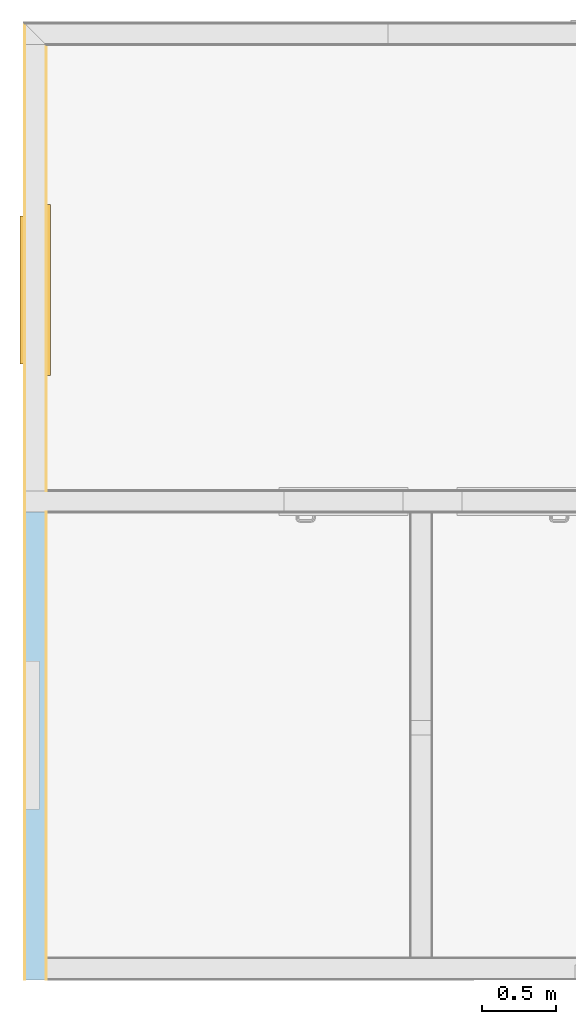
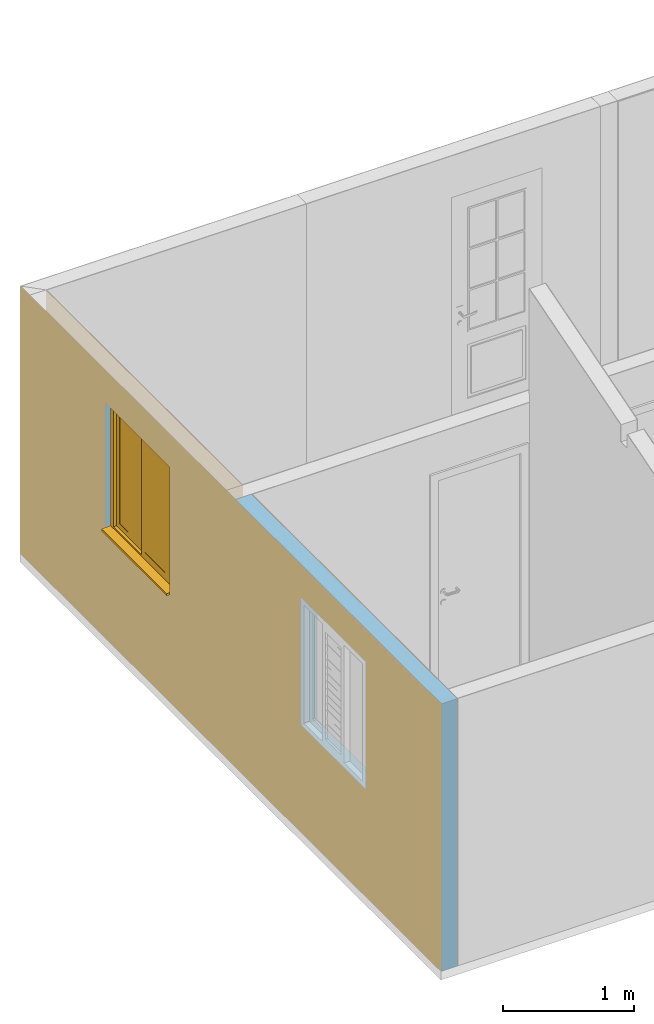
# One storey, part 8 of 8: 1 window, 2 openings, 1 element without a shape of its own, plus 3 elements that do not belong to this part.
"""IFC2X3 building model written with IfcOpenShell, lengths in millimetres."""

import ifcopenshell
import ifcopenshell.guid

model = None  # the IFC model being written
_history = None  # IfcOwnerHistory: only IFC2X3 demands one
_inside = {}  # id of a spatial element -> (the spatial element, [elements in it])
_under = {}  # id of a project, library or spatial element -> (it, [spatial elements below it])
_declared = {}  # id of a project -> (the project, [libraries it declares])
_typed = {}  # id of a type object -> (the type object, [elements of that type])
_made_of = {}  # id of a material, layer set ... -> (it, [elements and type objects made of it])


def new_model(schema):
    """Start an empty IFC model of exactly this schema.

    Asked for "IFC4X3", IfcOpenShell would pick the latest addendum, in which some entities
    have other attributes; the version numbers below select the first issue.
    IFC2X3 requires an IfcOwnerHistory on every rooted entity: one is made here for all.
    """
    global model, _history
    if schema == "IFC4X3":
        model = ifcopenshell.file(schema_version=(4, 3, 0, 0))
    else:
        model = ifcopenshell.file(schema=schema)
    _inside.clear()
    _under.clear()
    _declared.clear()
    _typed.clear()
    _made_of.clear()
    _history = None
    if model.schema == "IFC2X3":
        org = make("IfcOrganization", Name="unknown")
        user = make(
            "IfcPersonAndOrganization",
            ThePerson=make("IfcPerson", FamilyName="unknown"),
            TheOrganization=org,
        )
        app = make(
            "IfcApplication",
            ApplicationDeveloper=org,
            Version="unknown",
            ApplicationFullName="unknown",
            ApplicationIdentifier="unknown",
        )
        _history = make(
            "IfcOwnerHistory",
            OwningUser=user,
            OwningApplication=app,
            ChangeAction="ADDED",
            CreationDate=0,
        )
    return model


def make(cls, **values):
    """One entity of the class cls with the attributes given. An attribute that is None is left unset."""
    return model.create_entity(
        cls, **{name: value for name, value in values.items() if value is not None}
    )


def entity(cls, *values):
    """Any entity or typed value of the class cls, its attributes in the order of the schema. None: left unset."""
    e = model.create_entity(cls)
    for i, value in enumerate(values):
        if value is not None:
            e[i] = value
    return e


def rooted(cls, **values):
    """An entity with a GlobalId (a new one), such as an element, a storey or a relation."""
    return make(cls, GlobalId=ifcopenshell.guid.new(), OwnerHistory=_history, **values)


def si_unit(unit_type, name, prefix=None):
    """IfcSIUnit, for example si_unit("LENGTHUNIT", "METRE", prefix="MILLI")."""
    return make("IfcSIUnit", UnitType=unit_type, Prefix=prefix, Name=name)


def converted_unit(unit_type, name, factor, base, dimensions=None, offset=None):
    """IfcConversionBasedUnit, such as the inch: factor (a typed value) times the base unit."""
    return make(
        "IfcConversionBasedUnit"
        if offset is None
        else "IfcConversionBasedUnitWithOffset",
        ConversionOffset=offset,
        Dimensions=None
        if dimensions is None
        else entity("IfcDimensionalExponents", *dimensions),
        UnitType=unit_type,
        Name=name,
        ConversionFactor=make(
            "IfcMeasureWithUnit", ValueComponent=factor, UnitComponent=base
        ),
    )


def derived_unit(unit_type, elements):
    """IfcDerivedUnit: a product of units, each with its exponent."""
    return make(
        "IfcDerivedUnit",
        Elements=[
            make("IfcDerivedUnitElement", Unit=unit, Exponent=power)
            for unit, power in elements
        ],
        UnitType=unit_type,
    )


def money_unit(currency):
    """IfcMonetaryUnit."""
    return make("IfcMonetaryUnit", Currency=currency)


def assignment(units):
    """IfcUnitAssignment: the units of a project."""
    return None if units is None else make("IfcUnitAssignment", Units=units)


def point(xyz):
    """IfcCartesianPoint."""
    return None if xyz is None else make("IfcCartesianPoint", Coordinates=xyz)


def direction(xyz):
    """IfcDirection."""
    return None if xyz is None else make("IfcDirection", DirectionRatios=xyz)


def frame(location, z_axis=None, x_axis=None):
    """IfcAxis2Placement3D, a coordinate frame: its origin and axes. An axis left out is left unset."""
    return make(
        "IfcAxis2Placement3D",
        Location=point(location),
        Axis=direction(z_axis),
        RefDirection=direction(x_axis),
    )


def frame_2d(location, x_axis=None):
    """IfcAxis2Placement2D, a coordinate frame in the plane: its origin and x axis."""
    return make(
        "IfcAxis2Placement2D", Location=point(location), RefDirection=direction(x_axis)
    )


def origin_with_axes():
    """The frame at (0, 0, 0) with the z axis (0, 0, 1) and the x axis (1, 0, 0) written out."""
    return frame((0.0, 0.0, 0.0), z_axis=(0.0, 0.0, 1.0), x_axis=(1.0, 0.0, 0.0))


def origin_2d_with_axis():
    """The frame at (0, 0) in the plane with the x axis (1, 0) written out."""
    return frame_2d((0.0, 0.0), x_axis=(1.0, 0.0))


def place(relative_to, where):
    """IfcLocalPlacement: puts the frame where relative to a parent placement (None: the world)."""
    return make(
        "IfcLocalPlacement", PlacementRelTo=relative_to, RelativePlacement=where
    )


def context(
    kind, dimensions, precision=None, world=None, true_north=None, identifier=None
):
    """IfcGeometricRepresentationContext, for example the 3D "Model" context."""
    return make(
        "IfcGeometricRepresentationContext",
        ContextIdentifier=identifier,
        ContextType=kind,
        CoordinateSpaceDimension=dimensions,
        Precision=precision,
        WorldCoordinateSystem=world,
        TrueNorth=true_north,
    )


def subcontext(parent, identifier, kind, view, scale=None):
    """IfcGeometricRepresentationSubContext, for example "Body" below "Model"."""
    return make(
        "IfcGeometricRepresentationSubContext",
        ContextIdentifier=identifier,
        ContextType=kind,
        ParentContext=parent,
        TargetScale=scale,
        TargetView=view,
    )


def project(units=None, contexts=None):
    """IfcProject with its units and contexts."""
    return rooted(
        "IfcProject",
        Name="project",
        RepresentationContexts=contexts,
        UnitsInContext=assignment(units),
    )


def spatial(cls, under=None, at=None, **own):
    """A site, building, storey or space (cls), placed at a placement, below another one or the project."""
    s = rooted(cls, ObjectPlacement=at, **own)
    if under is not None:
        _under.setdefault(under.id(), (under, []))[1].append(s)
    return s


def polyline(points):
    """IfcPolyline through the points."""
    return make("IfcPolyline", Points=[point(p) for p in points])


def profile(cls, at=None, kind="AREA", **sizes):
    """A parametric profile (cls). Its sizes go by their IFC names, for example OverallWidth=200.0."""
    return make(cls, ProfileType=kind, Position=at, **sizes)


def rectangle(**sizes):
    """IfcRectangleProfileDef."""
    return profile("IfcRectangleProfileDef", **sizes)


def outline(outer, holes=None, kind="AREA"):
    """IfcArbitraryClosedProfileDef: a profile drawn as a closed curve; with holes, ...WithVoids."""
    if holes is None:
        return make("IfcArbitraryClosedProfileDef", ProfileType=kind, OuterCurve=outer)
    return make(
        "IfcArbitraryProfileDefWithVoids",
        ProfileType=kind,
        OuterCurve=outer,
        InnerCurves=holes,
    )


def extrude(swept, where, along, depth):
    """IfcExtrudedAreaSolid: the profile swept, set in the frame where, extruded along a direction by depth."""
    return make(
        "IfcExtrudedAreaSolid",
        SweptArea=swept,
        Position=where,
        ExtrudedDirection=direction(along),
        Depth=depth,
    )


def boolean(op, a, b):
    """IfcBooleanResult of two solids."""
    return make("IfcBooleanResult", Operator=op, FirstOperand=a, SecondOperand=b)


def faces_of(points, faces, orient=None, outer=None):
    """IfcFace entities. A face is a list of loops; a loop is a list of indices into points, from 0.

    orient and outer hold one flag for each loop. By default every Orientation is true, the
    first loop of a face is its IfcFaceOuterBound and the others are IfcFaceBound.
    """
    made = []
    for i, loops in enumerate(faces):
        bounds = []
        for j, loop in enumerate(loops):
            is_outer = j == 0 if outer is None else outer[i][j]
            bounds.append(
                make(
                    "IfcFaceOuterBound" if is_outer else "IfcFaceBound",
                    Bound=make("IfcPolyLoop", Polygon=[points[k] for k in loop]),
                    Orientation=True if orient is None else orient[i][j],
                )
            )
        made.append(make("IfcFace", Bounds=bounds))
    return made


def open_shell(faces, orient=None, outer=None):
    """The faces of one IfcOpenShell. surface_model builds it on its shared points."""
    return ("IfcOpenShell", faces, orient, outer)


def faceted_brep(points, faces, orient=None, outer=None, voids=None):
    """IfcFacetedBrep: a solid bounded by flat faces; with voids (closed shells), ...WithVoids."""
    shared = [point(p) for p in points]
    hull = make("IfcClosedShell", CfsFaces=faces_of(shared, faces, orient, outer))
    if voids is None:
        return make("IfcFacetedBrep", Outer=hull)
    return make(
        "IfcFacetedBrepWithVoids",
        Outer=hull,
        Voids=[
            make(cls, CfsFaces=faces_of(shared, fs, o, b)) for cls, fs, o, b in voids
        ],
    )


def surface_model(cls, points, shells):
    """IfcFaceBasedSurfaceModel or IfcShellBasedSurfaceModel (cls): surfaces that need not close."""
    shared = [point(p) for p in points]
    made = [make(c, CfsFaces=faces_of(shared, fs, o, b)) for c, fs, o, b in shells]
    if cls == "IfcFaceBasedSurfaceModel":
        return make(cls, FbsmFaces=made)
    return make(cls, SbsmBoundary=made)


def shape(context_of_items, identifier, shape_type, items):
    """IfcShapeRepresentation: the items that make up one representation, for example the "Body"."""
    return make(
        "IfcShapeRepresentation",
        ContextOfItems=context_of_items,
        RepresentationIdentifier=identifier,
        RepresentationType=shape_type,
        Items=items,
    )


def material(Name=None, Category=None):
    """IfcMaterial."""
    return make("IfcMaterial", Name=Name, Category=Category)


def made_of(thing, what):
    """Note that an element or type object is made of a material, layer set ...; save() writes the relation."""
    if what is not None:
        _made_of.setdefault(what.id(), (what, []))[1].append(thing)
    return thing


def type_object(cls, material=None, **own):
    """A type object (cls), such as IfcWallType, which elements share."""
    return made_of(rooted(cls, **own), material)


def element(
    cls,
    number,
    at=None,
    inside=None,
    cuts=None,
    type_object=None,
    material=None,
    context=None,
    identifier="Body",
    shape_type=None,
    held_by="IfcProductDefinitionShape",
    body=None,
    shapes=None,
    **own,
):
    """One element of the class cls, such as IfcWall. Its Tag is "e" and its number.

    at: its placement. inside: the storey or other place that contains it. cuts: it is an
    opening in that element (IfcRelVoidsElement). A single representation is given by context,
    identifier, shape_type and body (its items); several are given by shapes. held_by: the class
    of the entity that holds the representations. save() writes the other relations.
    """
    e = rooted(cls, Tag="e%d" % number, ObjectPlacement=at, **own)
    if body is not None:
        shapes = [shape(context, identifier, shape_type, body)]
    if shapes is not None:
        e.Representation = make(held_by, Representations=shapes)
    if inside is not None:
        _inside.setdefault(inside.id(), (inside, []))[1].append(e)
    if cuts is not None:
        rooted(
            "IfcRelVoidsElement", RelatingBuildingElement=cuts, RelatedOpeningElement=e
        )
    if type_object is not None:
        _typed.setdefault(type_object.id(), (type_object, []))[1].append(e)
    return made_of(e, material)


def fill(opening, filler):
    """IfcRelFillsElement: the door or window that sits in an opening."""
    return rooted(
        "IfcRelFillsElement",
        RelatingOpeningElement=opening,
        RelatedBuildingElement=filler,
    )


def aggregate(whole, parts):
    """IfcRelAggregates: a whole, such as a stair, and the parts it consists of."""
    return rooted("IfcRelAggregates", RelatingObject=whole, RelatedObjects=parts)


def save(model, path):
    """Write the relations noted so far, then the file.

    IfcRelAggregates (storeys below a building ...), IfcRelContainedInSpatialStructure (elements
    in a storey), IfcRelDefinesByType, IfcRelAssociatesMaterial and IfcRelDeclares: one each for
    every whole, place, type object, material and project.
    """
    for whole, parts in _under.values():
        aggregate(whole, parts)
    for where, things in _inside.values():
        rooted(
            "IfcRelContainedInSpatialStructure",
            RelatedElements=things,
            RelatingStructure=where,
        )
    for kind, things in _typed.values():
        rooted("IfcRelDefinesByType", RelatedObjects=things, RelatingType=kind)
    for what, things in _made_of.values():
        rooted("IfcRelAssociatesMaterial", RelatedObjects=things, RelatingMaterial=what)
    for by, libraries in _declared.values():
        rooted("IfcRelDeclares", RelatingContext=by, RelatedDefinitions=libraries)
    model.write(path)


model = new_model("IFC2X3")

# Units and contexts
model_context = context("Model", 3, precision=0.01, world=origin_with_axes(), true_north=direction((0.0, 1.0)))
body_context = subcontext(model_context, "Body", "Model", "MODEL_VIEW")
ifc_project = project(units=[si_unit("LENGTHUNIT", "METRE", prefix="MILLI"), si_unit("AREAUNIT", "SQUARE_METRE"), si_unit("VOLUMEUNIT", "CUBIC_METRE"), converted_unit("PLANEANGLEUNIT", "DEGREE", entity("IfcPlaneAngleMeasure", 0.0174532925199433), si_unit("PLANEANGLEUNIT", "RADIAN"), dimensions=[0, 0, 0, 0, 0, 0, 0]), money_unit("USD"), converted_unit("TIMEUNIT", "Year", entity("IfcTimeMeasure", 31557600.0), si_unit("TIMEUNIT", "SECOND"), dimensions=[0, 0, 1, 0, 0, 0, 0]), si_unit("MASSUNIT", "GRAM", prefix="KILO"), si_unit("THERMODYNAMICTEMPERATUREUNIT", "DEGREE_CELSIUS"), si_unit("LUMINOUSINTENSITYUNIT", "LUMEN"), si_unit("ENERGYUNIT", "JOULE", prefix="MEGA"), derived_unit("THERMALCONDUCTANCEUNIT", [(si_unit("POWERUNIT", "WATT"), 1), (si_unit("LENGTHUNIT", "METRE"), -1), (si_unit("THERMODYNAMICTEMPERATUREUNIT", "KELVIN"), -1)]), derived_unit("SPECIFICHEATCAPACITYUNIT", [(si_unit("ENERGYUNIT", "JOULE"), 1), (si_unit("MASSUNIT", "GRAM", prefix="KILO"), -1), (si_unit("THERMODYNAMICTEMPERATUREUNIT", "KELVIN"), -1)]), derived_unit("MASSDENSITYUNIT", [(si_unit("MASSUNIT", "GRAM", prefix="KILO"), 1), (si_unit("VOLUMEUNIT", "CUBIC_METRE"), -1)])], contexts=[model_context])

# Site, building, storey
site_placement = place(None, origin_with_axes())
site = spatial("IfcSite", under=ifc_project, at=site_placement, Name="Local", CompositionType="ELEMENT")
building_placement = place(site_placement, origin_with_axes())
building = spatial("IfcBuilding", under=site, at=building_placement, Name="Construção", CompositionType="ELEMENT")
storey_placement = place(building_placement, origin_with_axes())
storey = spatial("IfcBuildingStorey", under=building, at=storey_placement, Name="Pavimento Térreo", CompositionType="ELEMENT", Elevation=0.0)

# Window
window_style = type_object("IfcWindowStyle", Name="Janela 27", ConstructionType="NOTDEFINED", OperationType="DOUBLE_PANEL_VERTICAL", ParameterTakesPrecedence=False, Sizeable=False)
wall_placement = place(storey_placement, frame((0.0, 6450.000000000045, 0.0), z_axis=(0.0, 0.0, 1.0), x_axis=(0.0, -1.0, 0.0)))
opening_2_placement = place(wall_placement, frame((1800.000000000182, 0.0, 1000.0), z_axis=(0.0, 0.0, 1.0), x_axis=(1.0, 0.0, 0.0)))
window_placement = place(opening_2_placement, frame((500.0, 0.0, 0.0), z_axis=(0.0, 0.0, 1.0), x_axis=(-1.0, 0.0, 0.0)))
window = element("IfcWindow", 1, at=window_placement, inside=storey, type_object=window_style, Name="J02", ObjectType="WINDOW", OverallHeight=1200.0, OverallWidth=1000.0, context=body_context, shape_type="SurfaceModel", body=[
    faceted_brep([(0.0, -149.9999999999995, 0.0), (0.0, -99.99999999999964, 0.0), (1000.0, -99.99999999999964, 0.0), (1000.0, -150.0000000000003, 0.0), (0.0, -149.9999999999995, 1200.0), (0.0, -99.99999999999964, 1200.0), (1000.0, -100.0000000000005, 1200.0), (25.00000000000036, -99.99999999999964, 1175.0), (25.00000000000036, -99.99999999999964, 24.99999999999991), (974.9999999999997, -99.99999999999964, 24.99999999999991), (974.9999999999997, -99.99999999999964, 1175.0), (1000.0, -150.0000000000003, 1200.0), (974.9999999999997, -150.0000000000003, 24.99999999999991), (25.00000000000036, -149.9999999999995, 24.99999999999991), (25.00000000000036, -149.9999999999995, 1175.0), (974.9999999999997, -150.0000000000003, 1175.0)], [[[0, 1, 2, 3]], [[4, 5, 1, 0]], [[2, 1, 5, 6], [7, 8, 9, 10]], [[3, 2, 6, 11]], [[4, 0, 3, 11], [12, 13, 14, 15]], [[11, 6, 5, 4]], [[13, 8, 7, 14]], [[12, 9, 8, 13]], [[15, 10, 9, 12]], [[14, 7, 10, 15]]]),
    faceted_brep([(25.00000000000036, -174.9999999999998, 24.99999999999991), (-75.00000000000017, -174.9999999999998, -75.00000000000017), (-75.00000000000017, -149.9999999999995, -75.00000000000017), (25.00000000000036, -149.9999999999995, 24.99999999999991), (-75.00000000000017, -174.9999999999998, 1275.0), (25.00000000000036, -174.9999999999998, 1175.0), (-75.00000000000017, -149.9999999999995, 1275.0), (25.00000000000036, -149.9999999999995, 1175.0)], [[[0, 1, 2, 3]], [[4, 1, 0, 5]], [[1, 4, 6, 2]], [[3, 2, 6, 7]], [[5, 0, 3, 7]], [[4, 5, 7, 6]]]),
    faceted_brep([(974.9999999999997, -174.9999999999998, 1175.0), (1075.0, -174.9999999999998, 1275.0), (1075.0, -150.0000000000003, 1275.0), (974.9999999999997, -150.0000000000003, 1175.0), (1075.0, -174.9999999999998, -75.00000000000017), (974.9999999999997, -174.9999999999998, 24.99999999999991), (1075.0, -150.0000000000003, -75.00000000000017), (974.9999999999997, -150.0000000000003, 24.99999999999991)], [[[0, 1, 2, 3]], [[4, 1, 0, 5]], [[1, 4, 6, 2]], [[3, 2, 6, 7]], [[5, 0, 3, 7]], [[4, 5, 7, 6]]]),
    faceted_brep([(25.00000000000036, -174.9999999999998, 1175.0), (-75.00000000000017, -174.9999999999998, 1275.0), (-75.00000000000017, -149.9999999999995, 1275.0), (25.00000000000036, -149.9999999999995, 1175.0), (1075.0, -174.9999999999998, 1275.0), (974.9999999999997, -174.9999999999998, 1175.0), (1075.0, -150.0000000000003, 1275.0), (974.9999999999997, -150.0000000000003, 1175.0)], [[[0, 1, 2, 3]], [[4, 1, 0, 5]], [[1, 4, 6, 2]], [[3, 2, 6, 7]], [[5, 0, 3, 7]], [[4, 5, 7, 6]]]),
    faceted_brep([(0.0, -99.99999999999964, 1153.0), (46.99999999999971, -99.99999999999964, 1153.0), (46.99999999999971, -49.99999999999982, 1153.0), (0.0, -49.99999999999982, 1153.0), (46.99999999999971, -99.99999999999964, 46.99999999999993), (0.0, -99.99999999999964, 46.99999999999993), (46.99999999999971, -49.99999999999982, 46.99999999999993), (0.0, -49.99999999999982, 46.99999999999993)], [[[0, 1, 2, 3]], [[4, 1, 0, 5]], [[1, 4, 6, 2]], [[3, 2, 6, 7]], [[5, 0, 3, 7]], [[4, 5, 7, 6]]]),
    faceted_brep([(1000.0, -99.99999999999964, 46.99999999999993), (953.0000000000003, -99.99999999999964, 46.99999999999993), (953.0000000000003, -49.99999999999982, 46.99999999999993), (1000.0, -49.99999999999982, 46.99999999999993), (953.0000000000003, -99.99999999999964, 1153.0), (1000.0, -99.99999999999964, 1153.0), (953.0000000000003, -49.99999999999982, 1153.0), (1000.0, -49.99999999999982, 1153.0)], [[[0, 1, 2, 3]], [[4, 1, 0, 5]], [[1, 4, 6, 2]], [[3, 2, 6, 7]], [[5, 0, 3, 7]], [[4, 5, 7, 6]]]),
    faceted_brep([(1000.0, -99.99999999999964, 1153.0), (953.0000000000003, -99.99999999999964, 1153.0), (953.0000000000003, -49.99999999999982, 1153.0), (1000.0, -49.99999999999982, 1153.0), (46.99999999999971, -99.99999999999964, 1153.0), (1000.0, -100.0000000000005, 1200.0), (0.0, -99.99999999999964, 1200.0), (0.0, -99.99999999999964, 1153.0), (46.99999999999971, -49.99999999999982, 1153.0), (0.0, -49.99999999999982, 1153.0), (0.0, -49.99999999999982, 1200.0), (1000.0, -49.99999999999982, 1200.0)], [[[0, 1, 2, 3]], [[4, 1, 0, 5, 6, 7]], [[1, 4, 8, 2]], [[3, 2, 8, 9, 10, 11]], [[5, 0, 3, 11]], [[6, 5, 11, 10]], [[7, 6, 10, 9]], [[4, 7, 9, 8]]]),
    faceted_brep([(953.0000000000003, -99.99999999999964, 96.99999999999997), (903.0000000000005, -99.99999999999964, 96.99999999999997), (903.0000000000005, -75.00000000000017, 96.99999999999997), (953.0000000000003, -75.00000000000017, 96.99999999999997), (903.0000000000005, -99.99999999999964, 1103.0), (953.0000000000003, -99.99999999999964, 1103.0), (903.0000000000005, -75.00000000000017, 1103.0), (953.0000000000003, -75.00000000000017, 1103.0)], [[[0, 1, 2, 3]], [[4, 1, 0, 5]], [[1, 4, 6, 2]], [[3, 2, 6, 7]], [[5, 0, 3, 7]], [[4, 5, 7, 6]]]),
    faceted_brep([(474.9999999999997, -99.99999999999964, 1103.0), (474.9999999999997, -99.99999999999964, 1153.0), (474.9999999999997, -75.00000000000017, 1153.0), (474.9999999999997, -75.00000000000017, 1103.0), (953.0000000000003, -99.99999999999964, 1153.0), (525.0000000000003, -99.99999999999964, 1103.0), (903.0000000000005, -99.99999999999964, 1103.0), (953.0000000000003, -99.99999999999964, 1103.0), (953.0000000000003, -75.00000000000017, 1153.0), (953.0000000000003, -75.00000000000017, 1103.0), (903.0000000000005, -75.00000000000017, 1103.0), (525.0000000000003, -75.00000000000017, 1103.0)], [[[0, 1, 2, 3]], [[4, 1, 0, 5, 6, 7]], [[1, 4, 8, 2]], [[3, 2, 8, 9, 10, 11]], [[5, 0, 3, 11]], [[6, 5, 11, 10]], [[7, 6, 10, 9]], [[4, 7, 9, 8]]]),
    surface_model("IfcShellBasedSurfaceModel", [(525.0000000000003, -97.50000000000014, 96.99999999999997), (903.0000000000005, -97.50000000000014, 96.99999999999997), (903.0000000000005, -97.50000000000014, 1103.0), (525.0000000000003, -97.50000000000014, 1103.0)], [open_shell([[[0, 1, 2, 3]]])]),
    surface_model("IfcShellBasedSurfaceModel", [(525.0000000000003, -77.49999999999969, 96.99999999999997), (525.0000000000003, -77.49999999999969, 1103.0), (903.0000000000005, -77.49999999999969, 1103.0), (903.0000000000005, -77.49999999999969, 96.99999999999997)], [open_shell([[[0, 1, 2, 3]]])]),
    faceted_brep([(525.0000000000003, -75.00000000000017, 96.99999999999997), (474.9999999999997, -75.00000000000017, 96.99999999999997), (474.9999999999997, -49.99999999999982, 96.99999999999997), (525.0000000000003, -49.99999999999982, 96.99999999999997), (474.9999999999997, -75.00000000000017, 1103.0), (525.0000000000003, -75.00000000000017, 1103.0), (474.9999999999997, -49.99999999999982, 1103.0), (525.0000000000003, -49.99999999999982, 1103.0)], [[[0, 1, 2, 3]], [[4, 1, 0, 5]], [[1, 4, 6, 2]], [[3, 2, 6, 7]], [[5, 0, 3, 7]], [[4, 5, 7, 6]]]),
    faceted_brep([(46.99999999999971, -75.00000000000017, 1103.0), (46.99999999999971, -75.00000000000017, 1153.0), (46.99999999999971, -49.99999999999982, 1153.0), (46.99999999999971, -49.99999999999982, 1103.0), (525.0000000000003, -75.00000000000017, 1153.0), (96.99999999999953, -75.00000000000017, 1103.0), (474.9999999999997, -75.00000000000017, 1103.0), (525.0000000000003, -75.00000000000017, 1103.0), (525.0000000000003, -49.99999999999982, 1153.0), (525.0000000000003, -49.99999999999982, 1103.0), (474.9999999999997, -49.99999999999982, 1103.0), (96.99999999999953, -49.99999999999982, 1103.0)], [[[0, 1, 2, 3]], [[4, 1, 0, 5, 6, 7]], [[1, 4, 8, 2]], [[3, 2, 8, 9, 10, 11]], [[5, 0, 3, 11]], [[6, 5, 11, 10]], [[7, 6, 10, 9]], [[4, 7, 9, 8]]]),
    surface_model("IfcShellBasedSurfaceModel", [(96.99999999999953, -72.49999999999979, 96.99999999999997), (474.9999999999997, -72.49999999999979, 96.99999999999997), (474.9999999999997, -72.49999999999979, 1103.0), (96.99999999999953, -72.49999999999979, 1103.0)], [open_shell([[[0, 1, 2, 3]]])]),
    surface_model("IfcShellBasedSurfaceModel", [(96.99999999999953, -52.49999999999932, 96.99999999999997), (96.99999999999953, -52.50000000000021, 1103.0), (474.9999999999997, -52.50000000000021, 1103.0), (474.9999999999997, -52.49999999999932, 96.99999999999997)], [open_shell([[[0, 1, 2, 3]]])]),
    faceted_brep([(474.9999999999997, -99.99999999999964, 1103.0), (525.0000000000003, -99.99999999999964, 1103.0), (525.0000000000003, -75.00000000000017, 1103.0), (474.9999999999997, -75.00000000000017, 1103.0), (525.0000000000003, -99.99999999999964, 96.99999999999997), (474.9999999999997, -99.99999999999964, 96.99999999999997), (525.0000000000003, -75.00000000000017, 96.99999999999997), (474.9999999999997, -74.99999999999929, 96.99999999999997)], [[[0, 1, 2, 3]], [[4, 1, 0, 5]], [[1, 4, 6, 2]], [[3, 2, 6, 7]], [[5, 0, 3, 7]], [[4, 5, 7, 6]]]),
    faceted_brep([(953.0000000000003, -99.99999999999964, 96.99999999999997), (953.0000000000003, -99.99999999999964, 46.99999999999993), (953.0000000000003, -75.00000000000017, 46.99999999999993), (953.0000000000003, -75.00000000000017, 96.99999999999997), (474.9999999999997, -99.99999999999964, 46.99999999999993), (903.0000000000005, -99.99999999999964, 96.99999999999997), (525.0000000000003, -99.99999999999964, 96.99999999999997), (474.9999999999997, -99.99999999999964, 96.99999999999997), (474.9999999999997, -74.99999999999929, 46.99999999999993), (474.9999999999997, -74.99999999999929, 96.99999999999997), (525.0000000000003, -75.00000000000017, 96.99999999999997), (903.0000000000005, -75.00000000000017, 96.99999999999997)], [[[0, 1, 2, 3]], [[4, 1, 0, 5, 6, 7]], [[1, 4, 8, 2]], [[3, 2, 8, 9, 10, 11]], [[5, 0, 3, 11]], [[6, 5, 11, 10]], [[7, 6, 10, 9]], [[4, 7, 9, 8]]]),
    faceted_brep([(46.99999999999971, -75.00000000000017, 1103.0), (96.99999999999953, -75.00000000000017, 1103.0), (96.99999999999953, -49.99999999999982, 1103.0), (46.99999999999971, -49.99999999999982, 1103.0), (96.99999999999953, -74.99999999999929, 96.99999999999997), (46.99999999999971, -74.99999999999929, 96.99999999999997), (96.99999999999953, -49.99999999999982, 96.99999999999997), (46.99999999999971, -49.99999999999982, 96.99999999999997)], [[[0, 1, 2, 3]], [[4, 1, 0, 5]], [[1, 4, 6, 2]], [[3, 2, 6, 7]], [[5, 0, 3, 7]], [[4, 5, 7, 6]]]),
    faceted_brep([(525.0000000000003, -75.00000000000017, 96.99999999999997), (525.0000000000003, -75.00000000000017, 46.99999999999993), (525.0000000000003, -49.99999999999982, 46.99999999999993), (525.0000000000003, -49.99999999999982, 96.99999999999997), (46.99999999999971, -74.99999999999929, 46.99999999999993), (474.9999999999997, -75.00000000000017, 96.99999999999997), (96.99999999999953, -74.99999999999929, 96.99999999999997), (46.99999999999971, -74.99999999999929, 96.99999999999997), (46.99999999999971, -49.99999999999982, 46.99999999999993), (46.99999999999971, -49.99999999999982, 96.99999999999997), (96.99999999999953, -49.99999999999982, 96.99999999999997), (474.9999999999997, -49.99999999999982, 96.99999999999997)], [[[0, 1, 2, 3]], [[4, 1, 0, 5, 6, 7]], [[1, 4, 8, 2]], [[3, 2, 8, 9, 10, 11]], [[5, 0, 3, 11]], [[6, 5, 11, 10]], [[7, 6, 10, 9]], [[4, 7, 9, 8]]]),
    faceted_brep([(0.0, -49.99999999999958, 4.999999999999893), (0.0, -49.99999999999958, 30.00000000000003), (0.0, 0.0, 27.37961103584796), (0.0, 0.0, 5.000000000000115), (1000.0, -49.99999999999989, 4.999999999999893), (1000.0, -49.99999999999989, 30.00000000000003), (1000.0, 0.0, 27.37961103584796), (1000.0, 30.00000000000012, 25.80737765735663), (0.0, 30.00000000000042, 25.80737765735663), (0.0, 30.00000000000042, 5.000000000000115), (1000.0, 30.00000000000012, 5.000000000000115), (1000.0, 0.0, 5.000000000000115)], [[[0, 1, 2, 3]], [[4, 5, 1, 0]], [[1, 5, 6, 7, 8, 2]], [[3, 2, 8, 9]], [[0, 3, 9, 10, 11, 4]], [[11, 6, 5, 4]], [[10, 7, 6, 11]], [[9, 8, 7, 10]]]),
    faceted_brep([(0.0, -49.99999999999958, 0.0), (0.0, -49.99999999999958, 4.999999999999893), (0.0, 0.0, 4.999999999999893), (0.0, 0.0, 0.0), (1000.0, -49.99999999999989, 0.0), (1000.0, -49.99999999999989, 4.999999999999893), (1000.0, 0.0, 4.999999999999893), (1000.0, 0.0, 0.0)], [[[0, 1, 2, 3]], [[4, 5, 1, 0]], [[1, 5, 6, 2]], [[3, 2, 6, 7]], [[0, 3, 7, 4]], [[7, 6, 5, 4]]]),
    faceted_brep([(1075.0, -174.9999999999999, -75.00000000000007), (1075.0, -149.9999999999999, -75.00000000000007), (974.9999999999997, -149.9999999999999, 24.99999999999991), (974.9999999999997, -174.9999999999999, 24.99999999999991), (-75.00000000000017, -174.9999999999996, -75.00000000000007), (-75.00000000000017, -149.9999999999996, -75.00000000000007), (25.00000000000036, -149.9999999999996, 24.99999999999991), (25.00000000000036, -174.9999999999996, 24.99999999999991)], [[[0, 1, 2, 3]], [[4, 5, 1, 0]], [[1, 5, 6, 2]], [[3, 2, 6, 7]], [[0, 3, 7, 4]], [[7, 6, 5, 4]]]),
    faceted_brep([(46.99999999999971, -99.9999999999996, 46.99999999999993), (46.99999999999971, -49.9999999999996, 46.99999999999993), (0.0, -49.99999999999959, 46.99999999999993), (0.0, -99.99999999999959, 46.99999999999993), (953.0000000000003, -99.99999999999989, 46.99999999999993), (953.0000000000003, -49.99999999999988, 46.99999999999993), (1000.0, -49.99999999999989, 46.99999999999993), (1000.0, -49.99999999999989, 0.0), (0.0, -49.99999999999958, 0.0), (0.0, -99.99999999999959, 0.0), (1000.0, -99.9999999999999, 0.0), (1000.0, -99.9999999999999, 46.99999999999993)], [[[0, 1, 2, 3]], [[4, 5, 1, 0]], [[1, 5, 6, 7, 8, 2]], [[3, 2, 8, 9]], [[0, 3, 9, 10, 11, 4]], [[11, 6, 5, 4]], [[10, 7, 6, 11]], [[9, 8, 7, 10]]]),
])

# Wall, openings
wall_type = type_object("IfcWallType", Name="Alvenaria 140, Rebocada 2 Faces 150", PredefinedType="NOTDEFINED")
wall = element("IfcWall", 2, at=wall_placement, inside=storey, type_object=wall_type, Name="Parede-01")
opening_1_placement = place(wall_placement, frame((4800.000000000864, 0.0, 1000.0), z_axis=(0.0, 0.0, 1.0), x_axis=(1.0, 0.0, 0.0)))
element("IfcOpeningElement", 3, at=opening_1_placement, cuts=wall, Name="J03", context=body_context, shape_type="SweptSolid", body=[
    extrude(rectangle(XDim=1000.0, YDim=1200.0, at=origin_2d_with_axis()), frame((0.0, 150.0000000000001, 600.0000000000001), z_axis=(0.0, 1.0, 0.0), x_axis=(1.0, 0.0, 0.0)), (0.0, 0.0, -1.0), 450.0000000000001),
])
opening_2 = element("IfcOpeningElement", 4, at=opening_2_placement, cuts=wall, Name="J02", context=body_context, shape_type="SweptSolid", body=[
    extrude(rectangle(XDim=1000.0, YDim=1200.0, at=origin_2d_with_axis()), frame((0.0, 49.99999999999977, 600.0000000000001), z_axis=(0.0, -1.0, 0.0), x_axis=(-1.0, 0.0, 0.0)), (0.0, 0.0, -1.0), 250.0000000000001),
    extrude(rectangle(XDim=1000.0, YDim=1200.0, at=origin_2d_with_axis()), frame((0.0, 49.99999999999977, 600.0000000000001), z_axis=(0.0, 1.0, 0.0), x_axis=(-1.0, 0.0, 0.0)), (0.0, 0.0, -1.0), 200.0),
    extrude(rectangle(XDim=1150.0, YDim=1350.0, at=origin_2d_with_axis()), frame((0.0, 149.9999999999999, 599.9999999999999), z_axis=(0.0, -1.0, 0.0), x_axis=(-1.0, 0.0, 0.0)), (0.0, 0.0, -1.0), 200.0),
])

fill(opening_2, window)

# Covering
ifc_material_1 = material(Name="Reboco DEF")
covering_1_placement = place(wall_placement, origin_with_axes())
covering_1 = element("IfcCovering", 5, at=covering_1_placement, material=ifc_material_1, Name="Reboco DEF", PredefinedType="CLADDING", context=body_context, shape_type="CSG", body=[
    boolean("DIFFERENCE", boolean("DIFFERENCE", boolean("DIFFERENCE", extrude(outline(polyline([(0.0, 0.0), (6450.000000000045, 0.0), (6450.000000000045, 5.000000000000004), (0.0, 5.000000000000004), (0.0, 0.0)])), origin_with_axes(), (0.0, 0.0, 1.0), 2500.0), faceted_brep([(3295.000000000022, 144.9999999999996, 2300.0), (4.999999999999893, 144.9999999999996, 2300.0), (4.999999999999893, 144.9999999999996, 0.0), (0.0, 145.0, 0.0), (0.0, 145.0, 2500.0), (3295.000000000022, 144.9999999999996, 2500.0), (3295.000000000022, 4.999999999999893, 2300.0), (4.999999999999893, 4.999999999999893, 2300.0), (5.000000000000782, 4.999999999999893, 0.0), (0.0, 5.000000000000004, 0.0), (0.0, 5.000000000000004, 2500.0), (3295.000000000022, 4.999999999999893, 2500.0)], [[[0, 1, 2, 3, 4, 5]], [[1, 0, 6, 7]], [[2, 1, 7, 8]], [[2, 8, 9, 3]], [[4, 3, 9, 10]], [[11, 5, 4, 10]], [[5, 11, 6, 0]], [[6, 11, 10, 9, 8, 7]]])), faceted_brep([(3155.000000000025, 150.0000000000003, 2500.0), (3155.000000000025, 144.9999999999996, 2500.0), (3295.000000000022, 144.9999999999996, 2500.0), (3295.000000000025, 150.0000000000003, 2500.0), (3155.000000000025, 149.9999999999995, 0.0), (3155.000000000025, 144.9999999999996, 0.0), (3295.000000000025, 144.9999999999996, 0.0), (3295.000000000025, 149.9999999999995, 0.0)], [[[0, 1, 2, 3]], [[1, 0, 4, 5]], [[1, 5, 6, 2]], [[7, 3, 2, 6]], [[4, 0, 3, 7]], [[5, 4, 7, 6]]])), faceted_brep([(144.9999999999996, 144.9999999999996, 2500.0), (144.9999999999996, 150.0000000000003, 2500.0), (0.0, 150.0, 2500.0), (0.0, 145.0, 2500.0), (144.9999999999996, 150.0000000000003, 0.0), (144.9999999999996, 144.9999999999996, 0.0), (0.0, 150.0, 0.0), (0.0, 145.0, 0.0)], [[[0, 1, 2, 3]], [[4, 1, 0, 5]], [[1, 4, 6, 2]], [[2, 6, 7, 3]], [[5, 0, 3, 7]], [[4, 5, 7, 6]]])),
])

covering_2_placement = place(wall_placement, origin_with_axes())
covering_2 = element("IfcCovering", 6, at=covering_2_placement, material=ifc_material_1, Name="Reboco DEF", PredefinedType="CLADDING", context=body_context, shape_type="CSG", body=[
    boolean("DIFFERENCE", boolean("DIFFERENCE", boolean("DIFFERENCE", extrude(outline(polyline([(0.0, 145.0), (6450.000000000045, 145.0), (6450.000000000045, 150.0), (0.0, 150.0), (0.0, 145.0)])), origin_with_axes(), (0.0, 0.0, 1.0), 2500.0), faceted_brep([(3295.000000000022, 144.9999999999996, 2300.0), (4.999999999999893, 144.9999999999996, 2300.0), (4.999999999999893, 144.9999999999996, 0.0), (0.0, 145.0, 0.0), (0.0, 145.0, 2500.0), (3295.000000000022, 144.9999999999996, 2500.0), (3295.000000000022, 4.999999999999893, 2300.0), (4.999999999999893, 4.999999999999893, 2300.0), (5.000000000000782, 4.999999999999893, 0.0), (0.0, 5.000000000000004, 0.0), (0.0, 5.000000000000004, 2500.0), (3295.000000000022, 4.999999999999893, 2500.0)], [[[0, 1, 2, 3, 4, 5]], [[1, 0, 6, 7]], [[2, 1, 7, 8]], [[2, 8, 9, 3]], [[4, 3, 9, 10]], [[11, 5, 4, 10]], [[5, 11, 6, 0]], [[6, 11, 10, 9, 8, 7]]])), faceted_brep([(3155.000000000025, 150.0000000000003, 2500.0), (3155.000000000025, 144.9999999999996, 2500.0), (3295.000000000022, 144.9999999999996, 2500.0), (3295.000000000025, 150.0000000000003, 2500.0), (3155.000000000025, 149.9999999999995, 0.0), (3155.000000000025, 144.9999999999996, 0.0), (3295.000000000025, 144.9999999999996, 0.0), (3295.000000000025, 149.9999999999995, 0.0)], [[[0, 1, 2, 3]], [[1, 0, 4, 5]], [[1, 5, 6, 2]], [[7, 3, 2, 6]], [[4, 0, 3, 7]], [[5, 4, 7, 6]]])), faceted_brep([(144.9999999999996, 144.9999999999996, 2500.0), (144.9999999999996, 150.0000000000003, 2500.0), (0.0, 150.0, 2500.0), (0.0, 145.0, 2500.0), (144.9999999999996, 150.0000000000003, 0.0), (144.9999999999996, 144.9999999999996, 0.0), (0.0, 150.0, 0.0), (0.0, 145.0, 0.0)], [[[0, 1, 2, 3]], [[4, 1, 0, 5]], [[1, 4, 6, 2]], [[2, 6, 7, 3]], [[5, 0, 3, 7]], [[4, 5, 7, 6]]])),
])

# Building element part
ifc_material_2 = material(Name="Bloco de Concreto - Estrutural DEF")
building_element_part_placement = place(wall_placement, origin_with_axes())
building_element_part = element("IfcBuildingElementPart", 7, at=building_element_part_placement, material=ifc_material_2, Name="Bloco de Concreto - Estrutural DEF", context=body_context, shape_type="CSG", body=[
    boolean("DIFFERENCE", boolean("DIFFERENCE", boolean("DIFFERENCE", extrude(outline(polyline([(0.0, 4.999999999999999), (6450.000000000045, 4.999999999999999), (6450.000000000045, 145.0), (0.0, 145.0), (0.0, 4.999999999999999)])), origin_with_axes(), (0.0, 0.0, 1.0), 2500.0), faceted_brep([(3295.000000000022, 144.9999999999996, 2300.0), (4.999999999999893, 144.9999999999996, 2300.0), (4.999999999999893, 144.9999999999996, 0.0), (0.0, 145.0, 0.0), (0.0, 145.0, 2500.0), (3295.000000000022, 144.9999999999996, 2500.0), (3295.000000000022, 4.999999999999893, 2300.0), (4.999999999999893, 4.999999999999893, 2300.0), (5.000000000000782, 4.999999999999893, 0.0), (0.0, 5.000000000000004, 0.0), (0.0, 5.000000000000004, 2500.0), (3295.000000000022, 4.999999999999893, 2500.0)], [[[0, 1, 2, 3, 4, 5]], [[1, 0, 6, 7]], [[2, 1, 7, 8]], [[2, 8, 9, 3]], [[4, 3, 9, 10]], [[11, 5, 4, 10]], [[5, 11, 6, 0]], [[6, 11, 10, 9, 8, 7]]])), faceted_brep([(3155.000000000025, 150.0000000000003, 2500.0), (3155.000000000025, 144.9999999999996, 2500.0), (3295.000000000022, 144.9999999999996, 2500.0), (3295.000000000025, 150.0000000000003, 2500.0), (3155.000000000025, 149.9999999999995, 0.0), (3155.000000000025, 144.9999999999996, 0.0), (3295.000000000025, 144.9999999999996, 0.0), (3295.000000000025, 149.9999999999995, 0.0)], [[[0, 1, 2, 3]], [[1, 0, 4, 5]], [[1, 5, 6, 2]], [[7, 3, 2, 6]], [[4, 0, 3, 7]], [[5, 4, 7, 6]]])), faceted_brep([(144.9999999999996, 144.9999999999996, 2500.0), (144.9999999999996, 150.0000000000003, 2500.0), (0.0, 150.0, 2500.0), (0.0, 145.0, 2500.0), (144.9999999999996, 150.0000000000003, 0.0), (144.9999999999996, 144.9999999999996, 0.0), (0.0, 150.0, 0.0), (0.0, 145.0, 0.0)], [[[0, 1, 2, 3]], [[4, 1, 0, 5]], [[1, 4, 6, 2]], [[2, 6, 7, 3]], [[5, 0, 3, 7]], [[4, 5, 7, 6]]])),
])

aggregate(wall, [covering_1, building_element_part, covering_2])

save(model, "model.ifc")
